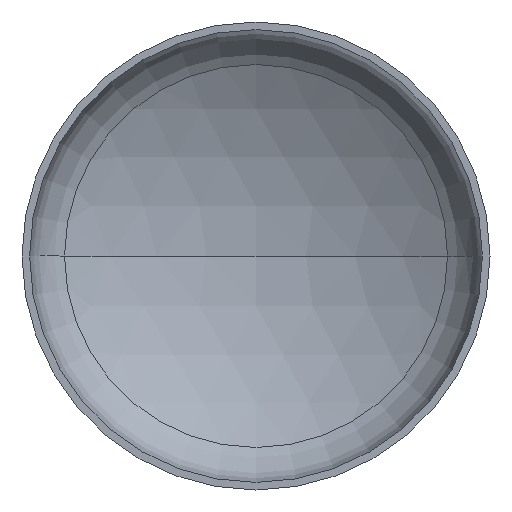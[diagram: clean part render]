
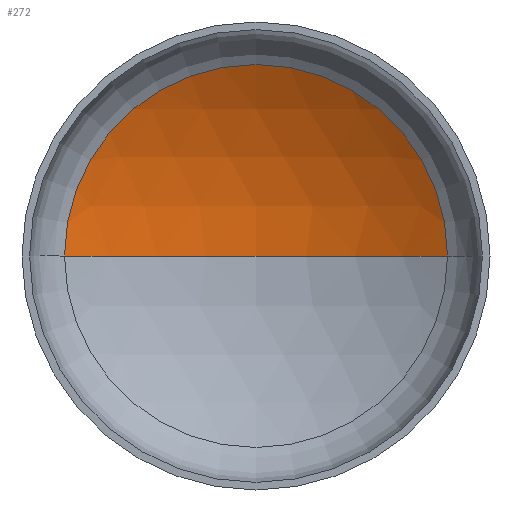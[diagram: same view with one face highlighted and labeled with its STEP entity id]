
A CAD part, front view. The second image highlights one B-rep face of the part: STEP entity #272.
In plain terms, the highlighted spherical face has radius 1520 mm.
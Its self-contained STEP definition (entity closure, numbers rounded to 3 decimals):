
#2 = ORIENTED_EDGE ( 'NONE', *, *, #117, .T. ) ;
#16 = AXIS2_PLACEMENT_3D ( 'NONE', #86, #97, #114 ) ;
#17 = VERTEX_POINT ( 'NONE', #250 ) ;
#22 = DIRECTION ( 'NONE',  ( 1., 0., 0. ) ) ;
#25 = DIRECTION ( 'NONE',  ( 0., -1., 0. ) ) ;
#30 = AXIS2_PLACEMENT_3D ( 'NONE', #206, #203, #204 ) ;
#32 = AXIS2_PLACEMENT_3D ( 'NONE', #259, #276, #79 ) ;
#37 = AXIS2_PLACEMENT_3D ( 'NONE', #345, #25, #22 ) ;
#47 = ORIENTED_EDGE ( 'NONE', *, *, #134, .F. ) ;
#79 = DIRECTION ( 'NONE',  ( -1., 0., 0. ) ) ;
#86 = CARTESIAN_POINT ( 'NONE',  ( 0., -957.005, 0. ) ) ;
#97 = DIRECTION ( 'NONE',  ( 0., 0., -1. ) ) ;
#108 = EDGE_CURVE ( 'NONE', #340, #142, #304, .T. ) ;
#111 = EDGE_LOOP ( 'NONE', ( #47, #2, #168 ) ) ;
#114 = DIRECTION ( 'NONE',  ( -1., 0., 0. ) ) ;
#117 = EDGE_CURVE ( 'NONE', #17, #340, #249, .T. ) ;
#134 = EDGE_CURVE ( 'NONE', #17, #142, #151, .T. ) ;
#142 = VERTEX_POINT ( 'NONE', #185 ) ;
#151 = CIRCLE ( 'NONE', #30, 1520. ) ;
#168 = ORIENTED_EDGE ( 'NONE', *, *, #108, .T. ) ;
#185 = CARTESIAN_POINT ( 'NONE',  ( -777.301, 349.212, 0. ) ) ;
#203 = DIRECTION ( 'NONE',  ( 0., 0., 1. ) ) ;
#204 = DIRECTION ( 'NONE',  ( 1., 0., 0. ) ) ;
#206 = CARTESIAN_POINT ( 'NONE',  ( 0., -957.005, 0. ) ) ;
#249 = CIRCLE ( 'NONE', #32, 1520. ) ;
#250 = CARTESIAN_POINT ( 'NONE',  ( 0., 562.995, 0. ) ) ;
#257 = CARTESIAN_POINT ( 'NONE',  ( 777.301, 349.212, 0. ) ) ;
#259 = CARTESIAN_POINT ( 'NONE',  ( 0., -957.005, 0. ) ) ;
#272 = ADVANCED_FACE ( 'NONE', ( #399 ), #286, .F. ) ;
#276 = DIRECTION ( 'NONE',  ( 0., 0., -1. ) ) ;
#286 = SPHERICAL_SURFACE ( 'NONE', #16, 1520. ) ;
#304 = CIRCLE ( 'NONE', #37, 777.301 ) ;
#340 = VERTEX_POINT ( 'NONE', #257 ) ;
#345 = CARTESIAN_POINT ( 'NONE',  ( 0., 349.212, 0. ) ) ;
#399 = FACE_OUTER_BOUND ( 'NONE', #111, .T. ) ;
